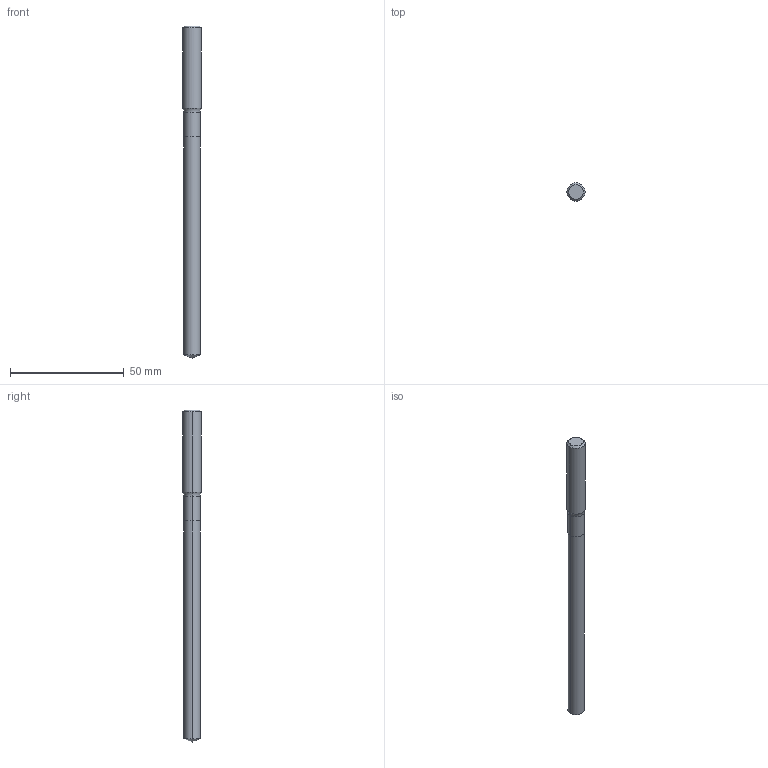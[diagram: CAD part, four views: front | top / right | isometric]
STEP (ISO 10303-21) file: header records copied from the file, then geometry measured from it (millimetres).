
FILE_DESCRIPTION (( 'STEP AP214' ), '1' );
FILE_NAME ('710.072.00_3D-model.step', '2022-02-22T16:51:40', ( '' ), ( '' ), 'SwSTEP 2.0', 'SolidWorks 2020', '' );
FILE_SCHEMA (( 'AUTOMOTIVE_DESIGN' ));
Length unit declared in the file: millimetre
Products named in the file (3): NOCUT-3D^Baugr27; 710.072.00_3D-model; CUT-3D^Baugr27
Assembly tree (2 placements, depth 2):
  710.072.00_3D-model
    CUT-3D^Baugr27
    NOCUT-3D^Baugr27
Bounding box: 8 x 8 x 146 mm (x, y, z)
Volume: 6248 mm3; surface area: 3525.9 mm2
Topology: 2 solids, 2 shells, 15 faces, 28 edges, 15 vertices
Faces by surface type: cylinder 6, cone 4, plane 3, torus 2
Entity records: 482 total; most frequent: DIRECTION 88, CARTESIAN_POINT 64, ORIENTED_EDGE 52, AXIS2_PLACEMENT_3D 39, EDGE_CURVE 26, CIRCLE 16, VERTEX_POINT 15, EDGE_LOOP 15
